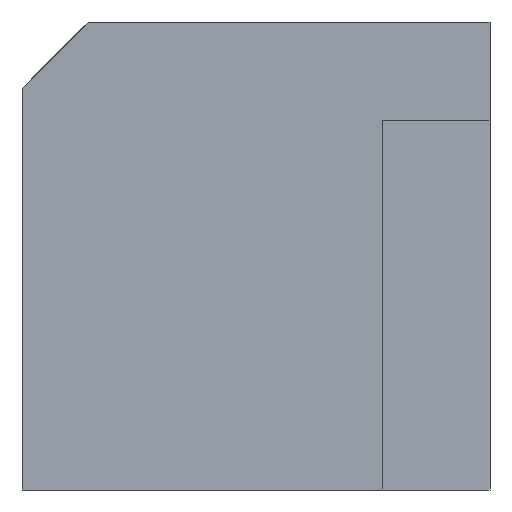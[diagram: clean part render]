
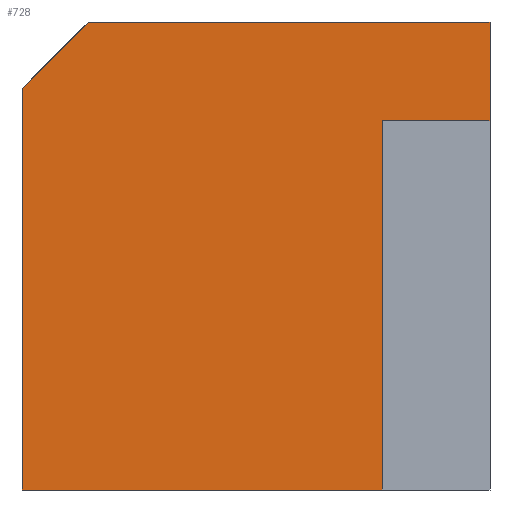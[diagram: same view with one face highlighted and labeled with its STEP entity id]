
A CAD part, left-side view. The second image highlights one B-rep face of the part: STEP entity #728.
In plain terms, the highlighted planar face has unit normal (-1, 0, 0).
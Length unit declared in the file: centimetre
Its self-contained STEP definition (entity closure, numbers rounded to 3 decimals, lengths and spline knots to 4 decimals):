
#33 = VERTEX_POINT ( 'NONE', #855 ) ;
#58 = VECTOR ( 'NONE', #634, 100. ) ;
#61 = CARTESIAN_POINT ( 'NONE',  ( 0., 230.5738, 0. ) ) ;
#69 = CARTESIAN_POINT ( 'NONE',  ( 0., 1000., 0. ) ) ;
#75 = DIRECTION ( 'NONE',  ( 1., 0., 0. ) ) ;
#83 = CARTESIAN_POINT ( 'NONE',  ( 0., 0., 1000. ) ) ;
#162 = CARTESIAN_POINT ( 'NONE',  ( 0., 1000., 1000. ) ) ;
#172 = ORIENTED_EDGE ( 'NONE', *, *, #737, .T. ) ;
#183 = VERTEX_POINT ( 'NONE', #819 ) ;
#184 = VECTOR ( 'NONE', #673, 100. ) ;
#217 = CARTESIAN_POINT ( 'NONE',  ( 0., 1000., 1000. ) ) ;
#257 = DIRECTION ( 'NONE',  ( 0., 0., -1. ) ) ;
#283 = LINE ( 'NONE', #582, #680 ) ;
#292 = LINE ( 'NONE', #519, #409 ) ;
#335 = VERTEX_POINT ( 'NONE', #413 ) ;
#376 = LINE ( 'NONE', #684, #952 ) ;
#385 = PLANE ( 'NONE',  #464 ) ;
#406 = LINE ( 'NONE', #83, #693 ) ;
#409 = VECTOR ( 'NONE', #663, 100. ) ;
#413 = CARTESIAN_POINT ( 'NONE',  ( 0., 1000., 0. ) ) ;
#427 = ORIENTED_EDGE ( 'NONE', *, *, #439, .F. ) ;
#431 = ORIENTED_EDGE ( 'NONE', *, *, #626, .T. ) ;
#439 = EDGE_CURVE ( 'NONE', #731, #553, #779, .T. ) ;
#447 = VECTOR ( 'NONE', #612, 100. ) ;
#454 = EDGE_CURVE ( 'NONE', #772, #731, #283, .T. ) ;
#464 = AXIS2_PLACEMENT_3D ( 'NONE', #162, #75, #763 ) ;
#519 = CARTESIAN_POINT ( 'NONE',  ( 0., 1000., 1000. ) ) ;
#535 = EDGE_CURVE ( 'NONE', #33, #183, #292, .T. ) ;
#553 = VERTEX_POINT ( 'NONE', #61 ) ;
#554 = EDGE_CURVE ( 'NONE', #589, #335, #596, .T. ) ;
#582 = CARTESIAN_POINT ( 'NONE',  ( 0., 0., 788.813 ) ) ;
#589 = VERTEX_POINT ( 'NONE', #839 ) ;
#596 = LINE ( 'NONE', #217, #184 ) ;
#603 = DIRECTION ( 'NONE',  ( 0., 1., 0. ) ) ;
#612 = DIRECTION ( 'NONE',  ( 0., -1., 0. ) ) ;
#624 = CARTESIAN_POINT ( 'NONE',  ( 0., 0., 788.813 ) ) ;
#626 = EDGE_CURVE ( 'NONE', #335, #553, #686, .T. ) ;
#634 = DIRECTION ( 'NONE',  ( 0., 0., -1. ) ) ;
#641 = ORIENTED_EDGE ( 'NONE', *, *, #535, .F. ) ;
#663 = DIRECTION ( 'NONE',  ( 0., -1., 0. ) ) ;
#664 = ORIENTED_EDGE ( 'NONE', *, *, #895, .F. ) ;
#673 = DIRECTION ( 'NONE',  ( 0., 0., -1. ) ) ;
#680 = VECTOR ( 'NONE', #603, 100. ) ;
#684 = CARTESIAN_POINT ( 'NONE',  ( 0., 858.4574, 1000. ) ) ;
#686 = LINE ( 'NONE', #69, #447 ) ;
#687 = DIRECTION ( 'NONE',  ( 0., 0.707, -0.707 ) ) ;
#693 = VECTOR ( 'NONE', #257, 100. ) ;
#697 = CARTESIAN_POINT ( 'NONE',  ( 0., 230.5738, 788.813 ) ) ;
#712 = CARTESIAN_POINT ( 'NONE',  ( 0., 230.5738, 788.813 ) ) ;
#728 = ADVANCED_FACE ( 'NONE', ( #914 ), #385, .F. ) ;
#731 = VERTEX_POINT ( 'NONE', #697 ) ;
#736 = EDGE_LOOP ( 'NONE', ( #431, #427, #954, #664, #641, #172, #947 ) ) ;
#737 = EDGE_CURVE ( 'NONE', #33, #589, #376, .T. ) ;
#763 = DIRECTION ( 'NONE',  ( 0., 0., -1. ) ) ;
#772 = VERTEX_POINT ( 'NONE', #624 ) ;
#779 = LINE ( 'NONE', #712, #58 ) ;
#819 = CARTESIAN_POINT ( 'NONE',  ( 0., 0., 1000. ) ) ;
#839 = CARTESIAN_POINT ( 'NONE',  ( 0., 1000., 858.4574 ) ) ;
#855 = CARTESIAN_POINT ( 'NONE',  ( 0., 858.4574, 1000. ) ) ;
#895 = EDGE_CURVE ( 'NONE', #183, #772, #406, .T. ) ;
#914 = FACE_OUTER_BOUND ( 'NONE', #736, .T. ) ;
#947 = ORIENTED_EDGE ( 'NONE', *, *, #554, .T. ) ;
#952 = VECTOR ( 'NONE', #687, 100. ) ;
#954 = ORIENTED_EDGE ( 'NONE', *, *, #454, .F. ) ;
